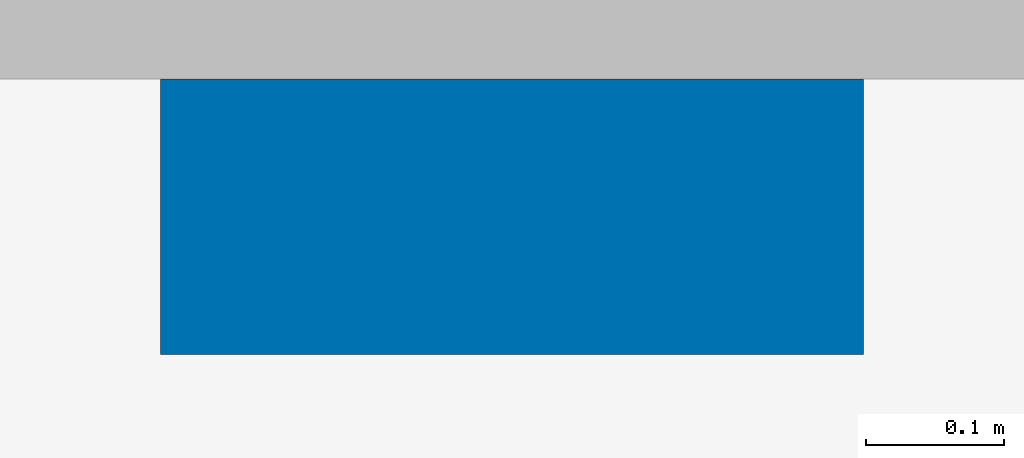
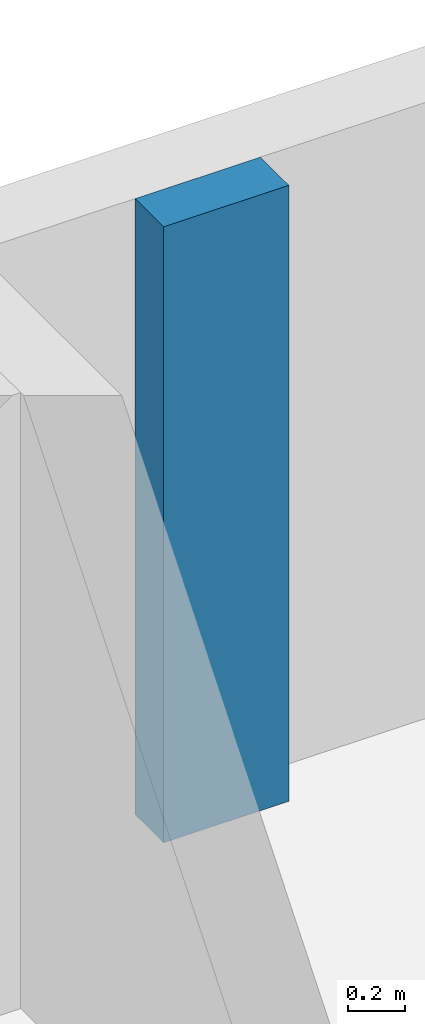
# One storey, part 7 of 42: 1 column.
"""IFC2X3 building model written with IfcOpenShell, lengths in millimetres."""

from ifc_helpers import new_model, entity, si_unit, converted_unit, derived_unit, direction, frame, frame_2d, origin, place, context, subcontext, project, spatial, rectangle, extrude, source, transform, mapped, material, type_object, type_shapes, element, save


model = new_model("IFC2X3")

# Units and contexts
model_context = context("Model", 3, precision=0.01, world=origin(), true_north=direction((6.12303176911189e-17, 1.0)))
body_context = subcontext(model_context, "Body", "Model", "MODEL_VIEW")
ifc_project = project(units=[si_unit("LENGTHUNIT", "METRE", prefix="MILLI"), si_unit("AREAUNIT", "SQUARE_METRE", prefix="MILLI"), si_unit("VOLUMEUNIT", "CUBIC_METRE"), converted_unit("PLANEANGLEUNIT", "DEGREE", entity("IfcRatioMeasure", 0.0174532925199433), si_unit("PLANEANGLEUNIT", "RADIAN"), dimensions=[0, 0, 0, 0, 0, 0, 0]), si_unit("MASSUNIT", "GRAM", prefix="KILO"), derived_unit("MASSDENSITYUNIT", [(si_unit("MASSUNIT", "GRAM", prefix="KILO"), 1), (si_unit("LENGTHUNIT", "METRE"), -3)]), derived_unit("MOMENTOFINERTIAUNIT", [(si_unit("LENGTHUNIT", "METRE"), 4)]), si_unit("TIMEUNIT", "SECOND"), si_unit("FREQUENCYUNIT", "HERTZ"), si_unit("THERMODYNAMICTEMPERATUREUNIT", "DEGREE_CELSIUS"), derived_unit("THERMALTRANSMITTANCEUNIT", [(si_unit("MASSUNIT", "GRAM", prefix="KILO"), 1), (si_unit("THERMODYNAMICTEMPERATUREUNIT", "KELVIN"), -1), (si_unit("TIMEUNIT", "SECOND"), -3)]), derived_unit("VOLUMETRICFLOWRATEUNIT", [(si_unit("LENGTHUNIT", "METRE"), 3), (si_unit("TIMEUNIT", "SECOND"), -1)]), si_unit("ELECTRICCURRENTUNIT", "AMPERE"), si_unit("ELECTRICVOLTAGEUNIT", "VOLT"), si_unit("POWERUNIT", "WATT"), si_unit("FORCEUNIT", "NEWTON", prefix="KILO"), si_unit("ILLUMINANCEUNIT", "LUX"), si_unit("LUMINOUSFLUXUNIT", "LUMEN"), si_unit("LUMINOUSINTENSITYUNIT", "CANDELA"), derived_unit("USERDEFINED", [(si_unit("MASSUNIT", "GRAM", prefix="KILO"), -1), (si_unit("LENGTHUNIT", "METRE"), -2), (si_unit("TIMEUNIT", "SECOND"), 3), (si_unit("LUMINOUSFLUXUNIT", "LUMEN"), 1)]), derived_unit("LINEARVELOCITYUNIT", [(si_unit("LENGTHUNIT", "METRE"), 1), (si_unit("TIMEUNIT", "SECOND"), -1)]), si_unit("PRESSUREUNIT", "PASCAL"), derived_unit("USERDEFINED", [(si_unit("LENGTHUNIT", "METRE"), -2), (si_unit("MASSUNIT", "GRAM", prefix="KILO"), 1), (si_unit("TIMEUNIT", "SECOND"), -2)]), derived_unit("LINEARFORCEUNIT", [(si_unit("MASSUNIT", "GRAM", prefix="KILO"), 1), (si_unit("LENGTHUNIT", "METRE"), 1), (si_unit("TIMEUNIT", "SECOND"), -2), (si_unit("LENGTHUNIT", "METRE"), -1)]), derived_unit("PLANARFORCEUNIT", [(si_unit("MASSUNIT", "GRAM", prefix="KILO"), 1), (si_unit("LENGTHUNIT", "METRE"), 1), (si_unit("TIMEUNIT", "SECOND"), -2), (si_unit("LENGTHUNIT", "METRE"), -2)])], contexts=[model_context])

# Site, building, storey
site_placement = place(None, origin())
site = spatial("IfcSite", under=ifc_project, at=site_placement, Name="Theater aan de Parade", CompositionType="ELEMENT")
building_placement = place(site_placement, origin())
building = spatial("IfcBuilding", under=site, at=building_placement, Name="Theater aan de Parade", CompositionType="ELEMENT")
storey_placement = place(building_placement, frame((0.0, 0.0, -3300.0)))
storey = spatial("IfcBuildingStorey", under=building, at=storey_placement, Name="-1 kelder", CompositionType="ELEMENT", Elevation=-3300.0)

# Column
ifc_material = material(Name="00_PBT_MAT_beton t.p.g.")
column_type = type_object("IfcColumnType", Name="16_PBT_SC_beton_rechthoekig:510x500_bestaand", PredefinedType="COLUMN", material=ifc_material)
shared_shape = source(origin(), body_context, "Body", "SweptSolid", [
    extrude(rectangle(XDim=200.000000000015, YDim=510.000000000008, at=frame_2d((-4.33431068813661e-12, -2.1600499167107e-12), x_axis=(1.0, 0.0))), frame((14355.0, 43300.0, -3340.0), z_axis=(0.0, 0.0, 1.0), x_axis=(0.0, -1.0, 0.0)), (0.0, 0.0, 1.0), 2650.00000000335),
])
type_shapes(column_type, [shared_shape])
column_placement = place(storey_placement, frame((0.0, 0.0, 3300.0)))
element("IfcColumn", 1, at=column_placement, inside=storey, type_object=column_type, material=ifc_material, Name="16_PBT_SC_beton_rechthoekig:510x500_bestaand", ObjectType="16_PBT_SC_beton_rechthoekig:510x500_bestaand", context=body_context, shape_type="MappedRepresentation", body=[
    mapped(shared_shape, transform((0.0, 0.0, 0.0), scale=1.0)),
])

save(model, "model.ifc")
